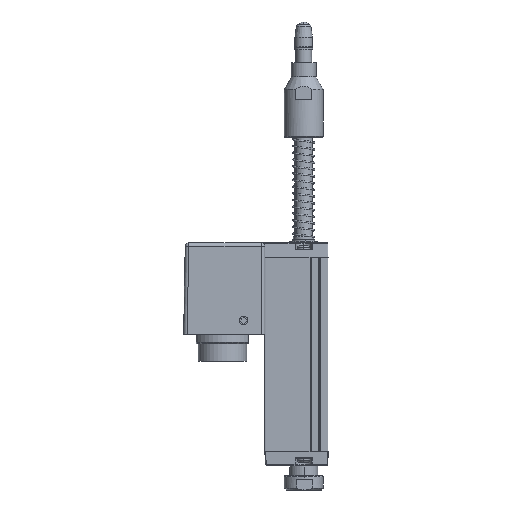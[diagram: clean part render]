
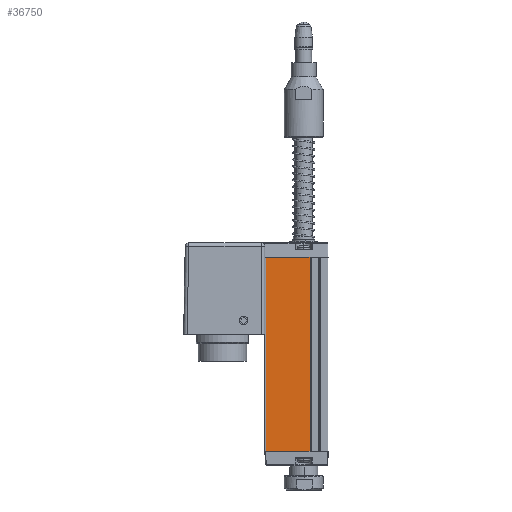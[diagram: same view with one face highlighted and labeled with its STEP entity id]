
A CAD part, left-side view. The second image highlights one B-rep face of the part: STEP entity #36750.
In plain terms, the highlighted planar face has unit normal (-1, 0, 0).
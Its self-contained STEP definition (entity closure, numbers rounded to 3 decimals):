
#19599 = VERTEX_POINT('',#19600);
#19600 = CARTESIAN_POINT('',(-9.,0.,-0.2));
#19620 = CYLINDRICAL_SURFACE('',#19621,0.2);
#19621 = AXIS2_PLACEMENT_3D('',#19622,#19623,#19624);
#19622 = CARTESIAN_POINT('',(-8.8,55.,-0.2));
#19623 = DIRECTION('',(0.,-1.,0.));
#19624 = DIRECTION('',(1.,0.,0.));
#19670 = PLANE('',#19671);
#19671 = AXIS2_PLACEMENT_3D('',#19672,#19673,#19674);
#19672 = CARTESIAN_POINT('',(-9.,0.,0.));
#19673 = DIRECTION('',(-0.999,-0.052,
    0.));
#19674 = DIRECTION('',(0.052,-0.999,0.));
#25302 = EDGE_CURVE('',#19599,#25303,#25305,.T.);
#25303 = VERTEX_POINT('',#25304);
#25304 = CARTESIAN_POINT('',(-9.,0.,-12.8));
#25305 = SURFACE_CURVE('',#25306,(#25310,#25317),.PCURVE_S1.);
#25306 = LINE('',#25307,#25308);
#25307 = CARTESIAN_POINT('',(-9.,0.,0.));
#25308 = VECTOR('',#25309,1.);
#25309 = DIRECTION('',(0.,0.,-1.));
#25310 = PCURVE('',#19670,#25311);
#25311 = DEFINITIONAL_REPRESENTATION('',(#25312),#25316);
#25312 = LINE('',#25313,#25314);
#25313 = CARTESIAN_POINT('',(0.,0.));
#25314 = VECTOR('',#25315,1.);
#25315 = DIRECTION('',(0.,-1.));
#25316 = ( GEOMETRIC_REPRESENTATION_CONTEXT(2) 
PARAMETRIC_REPRESENTATION_CONTEXT() REPRESENTATION_CONTEXT('2D SPACE',''
  ) );
#25317 = PCURVE('',#25318,#25323);
#25318 = PLANE('',#25319);
#25319 = AXIS2_PLACEMENT_3D('',#25320,#25321,#25322);
#25320 = CARTESIAN_POINT('',(-9.,55.,0.));
#25321 = DIRECTION('',(-1.,0.,0.));
#25322 = DIRECTION('',(0.,0.,-1.));
#25323 = DEFINITIONAL_REPRESENTATION('',(#25324),#25328);
#25324 = LINE('',#25325,#25326);
#25325 = CARTESIAN_POINT('',(0.,55.));
#25326 = VECTOR('',#25327,1.);
#25327 = DIRECTION('',(1.,0.));
#25328 = ( GEOMETRIC_REPRESENTATION_CONTEXT(2) 
PARAMETRIC_REPRESENTATION_CONTEXT() REPRESENTATION_CONTEXT('2D SPACE',''
  ) );
#32920 = CYLINDRICAL_SURFACE('',#32921,0.2);
#32921 = AXIS2_PLACEMENT_3D('',#32922,#32923,#32924);
#32922 = CARTESIAN_POINT('',(-8.8,55.,-12.8));
#32923 = DIRECTION('',(0.,-1.,0.));
#32924 = DIRECTION('',(1.,0.,0.));
#33202 = VERTEX_POINT('',#33203);
#33203 = CARTESIAN_POINT('',(-9.,55.,-0.2));
#33242 = PLANE('',#33243);
#33243 = AXIS2_PLACEMENT_3D('',#33244,#33245,#33246);
#33244 = CARTESIAN_POINT('',(-9.,55.,0.));
#33245 = DIRECTION('',(-0.999,0.052,
    0.));
#33246 = DIRECTION('',(-0.052,-0.999,
    0.));
#33260 = EDGE_CURVE('',#19599,#33202,#33261,.T.);
#33261 = SURFACE_CURVE('',#33262,(#33266,#33295),.PCURVE_S1.);
#33262 = LINE('',#33263,#33264);
#33263 = CARTESIAN_POINT('',(-9.,55.,-0.2));
#33264 = VECTOR('',#33265,1.);
#33265 = DIRECTION('',(0.,1.,0.));
#33266 = PCURVE('',#19620,#33267);
#33267 = DEFINITIONAL_REPRESENTATION('',(#33268),#33294);
#33268 = B_SPLINE_CURVE_WITH_KNOTS('',3,(#33269,#33270,#33271,#33272,
    #33273,#33274,#33275,#33276,#33277,#33278,#33279,#33280,#33281,
    #33282,#33283,#33284,#33285,#33286,#33287,#33288,#33289,#33290,
    #33291,#33292,#33293),.UNSPECIFIED.,.F.,.F.,(4,1,1,1,1,1,1,1,1,1,1,1
    ,1,1,1,1,1,1,1,1,1,1,4),(-55.,-52.5,-50.,-47.5,-45.,-42.5,-40.,-37.5
    ,-35.,-32.5,-30.,-27.5,-25.,-22.5,-20.,-17.5,-15.,-12.5,-10.,-7.5,
    -5.,-2.5,0.),.QUASI_UNIFORM_KNOTS.);
#33269 = CARTESIAN_POINT('',(3.142,55.));
#33270 = CARTESIAN_POINT('',(3.142,54.167));
#33271 = CARTESIAN_POINT('',(3.142,52.5));
#33272 = CARTESIAN_POINT('',(3.142,50.));
#33273 = CARTESIAN_POINT('',(3.142,47.5));
#33274 = CARTESIAN_POINT('',(3.142,45.));
#33275 = CARTESIAN_POINT('',(3.142,42.5));
#33276 = CARTESIAN_POINT('',(3.142,40.));
#33277 = CARTESIAN_POINT('',(3.142,37.5));
#33278 = CARTESIAN_POINT('',(3.142,35.));
#33279 = CARTESIAN_POINT('',(3.142,32.5));
#33280 = CARTESIAN_POINT('',(3.142,30.));
#33281 = CARTESIAN_POINT('',(3.142,27.5));
#33282 = CARTESIAN_POINT('',(3.142,25.));
#33283 = CARTESIAN_POINT('',(3.142,22.5));
#33284 = CARTESIAN_POINT('',(3.142,20.));
#33285 = CARTESIAN_POINT('',(3.142,17.5));
#33286 = CARTESIAN_POINT('',(3.142,15.));
#33287 = CARTESIAN_POINT('',(3.142,12.5));
#33288 = CARTESIAN_POINT('',(3.142,10.));
#33289 = CARTESIAN_POINT('',(3.142,7.5));
#33290 = CARTESIAN_POINT('',(3.142,5.));
#33291 = CARTESIAN_POINT('',(3.142,2.5));
#33292 = CARTESIAN_POINT('',(3.142,0.833));
#33293 = CARTESIAN_POINT('',(3.142,0.));
#33294 = ( GEOMETRIC_REPRESENTATION_CONTEXT(2) 
PARAMETRIC_REPRESENTATION_CONTEXT() REPRESENTATION_CONTEXT('2D SPACE',''
  ) );
#33295 = PCURVE('',#25318,#33296);
#33296 = DEFINITIONAL_REPRESENTATION('',(#33297),#33301);
#33297 = LINE('',#33298,#33299);
#33298 = CARTESIAN_POINT('',(0.2,0.));
#33299 = VECTOR('',#33300,1.);
#33300 = DIRECTION('',(0.,-1.));
#33301 = ( GEOMETRIC_REPRESENTATION_CONTEXT(2) 
PARAMETRIC_REPRESENTATION_CONTEXT() REPRESENTATION_CONTEXT('2D SPACE',''
  ) );
#36316 = EDGE_CURVE('',#36317,#25303,#36319,.T.);
#36317 = VERTEX_POINT('',#36318);
#36318 = CARTESIAN_POINT('',(-9.,55.,-12.8));
#36319 = SURFACE_CURVE('',#36320,(#36324,#36353),.PCURVE_S1.);
#36320 = LINE('',#36321,#36322);
#36321 = CARTESIAN_POINT('',(-9.,0.,-12.8));
#36322 = VECTOR('',#36323,1.);
#36323 = DIRECTION('',(0.,-1.,0.));
#36324 = PCURVE('',#32920,#36325);
#36325 = DEFINITIONAL_REPRESENTATION('',(#36326),#36352);
#36326 = B_SPLINE_CURVE_WITH_KNOTS('',3,(#36327,#36328,#36329,#36330,
    #36331,#36332,#36333,#36334,#36335,#36336,#36337,#36338,#36339,
    #36340,#36341,#36342,#36343,#36344,#36345,#36346,#36347,#36348,
    #36349,#36350,#36351),.UNSPECIFIED.,.F.,.F.,(4,1,1,1,1,1,1,1,1,1,1,1
    ,1,1,1,1,1,1,1,1,1,1,4),(-55.,-52.5,-50.,-47.5,-45.,-42.5,-40.,-37.5
    ,-35.,-32.5,-30.,-27.5,-25.,-22.5,-20.,-17.5,-15.,-12.5,-10.,-7.5,
    -5.,-2.5,0.),.QUASI_UNIFORM_KNOTS.);
#36327 = CARTESIAN_POINT('',(3.142,0.));
#36328 = CARTESIAN_POINT('',(3.142,0.833));
#36329 = CARTESIAN_POINT('',(3.142,2.5));
#36330 = CARTESIAN_POINT('',(3.142,5.));
#36331 = CARTESIAN_POINT('',(3.142,7.5));
#36332 = CARTESIAN_POINT('',(3.142,10.));
#36333 = CARTESIAN_POINT('',(3.142,12.5));
#36334 = CARTESIAN_POINT('',(3.142,15.));
#36335 = CARTESIAN_POINT('',(3.142,17.5));
#36336 = CARTESIAN_POINT('',(3.142,20.));
#36337 = CARTESIAN_POINT('',(3.142,22.5));
#36338 = CARTESIAN_POINT('',(3.142,25.));
#36339 = CARTESIAN_POINT('',(3.142,27.5));
#36340 = CARTESIAN_POINT('',(3.142,30.));
#36341 = CARTESIAN_POINT('',(3.142,32.5));
#36342 = CARTESIAN_POINT('',(3.142,35.));
#36343 = CARTESIAN_POINT('',(3.142,37.5));
#36344 = CARTESIAN_POINT('',(3.142,40.));
#36345 = CARTESIAN_POINT('',(3.142,42.5));
#36346 = CARTESIAN_POINT('',(3.142,45.));
#36347 = CARTESIAN_POINT('',(3.142,47.5));
#36348 = CARTESIAN_POINT('',(3.142,50.));
#36349 = CARTESIAN_POINT('',(3.142,52.5));
#36350 = CARTESIAN_POINT('',(3.142,54.167));
#36351 = CARTESIAN_POINT('',(3.142,55.));
#36352 = ( GEOMETRIC_REPRESENTATION_CONTEXT(2) 
PARAMETRIC_REPRESENTATION_CONTEXT() REPRESENTATION_CONTEXT('2D SPACE',''
  ) );
#36353 = PCURVE('',#25318,#36354);
#36354 = DEFINITIONAL_REPRESENTATION('',(#36355),#36359);
#36355 = LINE('',#36356,#36357);
#36356 = CARTESIAN_POINT('',(12.8,55.));
#36357 = VECTOR('',#36358,1.);
#36358 = DIRECTION('',(0.,1.));
#36359 = ( GEOMETRIC_REPRESENTATION_CONTEXT(2) 
PARAMETRIC_REPRESENTATION_CONTEXT() REPRESENTATION_CONTEXT('2D SPACE',''
  ) );
#36750 = ADVANCED_FACE('',(#36751),#25318,.T.);
#36751 = FACE_BOUND('',#36752,.T.);
#36752 = EDGE_LOOP('',(#36753,#36774,#36775,#36776));
#36753 = ORIENTED_EDGE('',*,*,#36754,.T.);
#36754 = EDGE_CURVE('',#33202,#36317,#36755,.T.);
#36755 = SURFACE_CURVE('',#36756,(#36760,#36767),.PCURVE_S1.);
#36756 = LINE('',#36757,#36758);
#36757 = CARTESIAN_POINT('',(-9.,55.,0.));
#36758 = VECTOR('',#36759,1.);
#36759 = DIRECTION('',(0.,0.,-1.));
#36760 = PCURVE('',#25318,#36761);
#36761 = DEFINITIONAL_REPRESENTATION('',(#36762),#36766);
#36762 = LINE('',#36763,#36764);
#36763 = CARTESIAN_POINT('',(0.,0.));
#36764 = VECTOR('',#36765,1.);
#36765 = DIRECTION('',(1.,0.));
#36766 = ( GEOMETRIC_REPRESENTATION_CONTEXT(2) 
PARAMETRIC_REPRESENTATION_CONTEXT() REPRESENTATION_CONTEXT('2D SPACE',''
  ) );
#36767 = PCURVE('',#33242,#36768);
#36768 = DEFINITIONAL_REPRESENTATION('',(#36769),#36773);
#36769 = LINE('',#36770,#36771);
#36770 = CARTESIAN_POINT('',(0.,0.));
#36771 = VECTOR('',#36772,1.);
#36772 = DIRECTION('',(0.,-1.));
#36773 = ( GEOMETRIC_REPRESENTATION_CONTEXT(2) 
PARAMETRIC_REPRESENTATION_CONTEXT() REPRESENTATION_CONTEXT('2D SPACE',''
  ) );
#36774 = ORIENTED_EDGE('',*,*,#36316,.T.);
#36775 = ORIENTED_EDGE('',*,*,#25302,.F.);
#36776 = ORIENTED_EDGE('',*,*,#33260,.T.);
